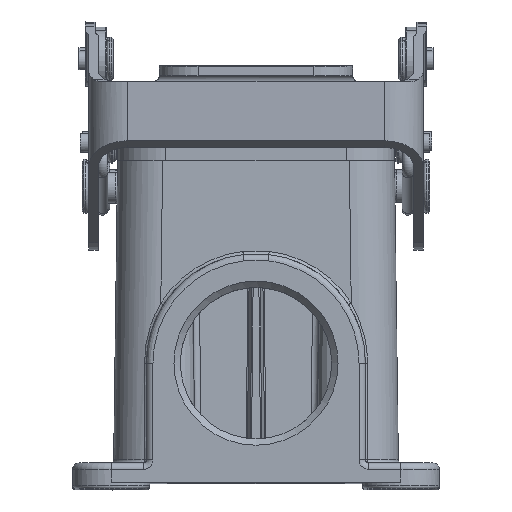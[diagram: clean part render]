
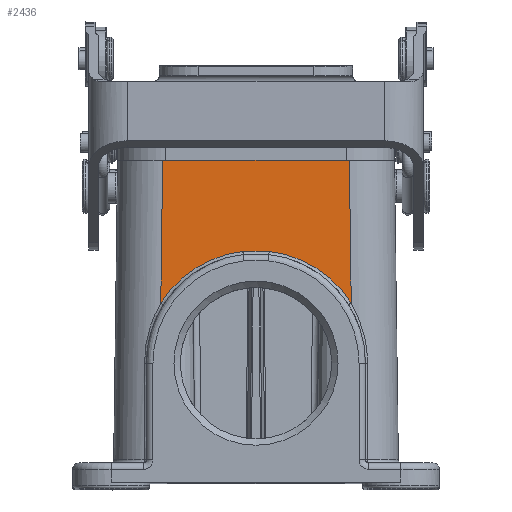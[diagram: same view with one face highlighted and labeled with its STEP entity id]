
A CAD part, top view. The second image highlights one B-rep face of the part: STEP entity #2436.
In plain terms, the highlighted planar face has unit normal (0, 0.013, 1).
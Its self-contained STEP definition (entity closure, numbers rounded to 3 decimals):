
#225 = CARTESIAN_POINT ( 'NONE',  ( -14.014, 50., 46.75 ) ) ;
#888 = EDGE_CURVE ( 'NONE', #17968, #13676, #14232, .T. ) ;
#926 = CARTESIAN_POINT ( 'NONE',  ( 14.791, 27.847, 47.04 ) ) ;
#1134 = EDGE_CURVE ( 'NONE', #1405, #24876, #7556, .T. ) ;
#1405 = VERTEX_POINT ( 'NONE', #26048 ) ;
#1640 = CARTESIAN_POINT ( 'NONE',  ( 14.005, 49.999, 46.75 ) ) ;
#1883 = FACE_OUTER_BOUND ( 'NONE', #19435, .T. ) ;
#2194 = CARTESIAN_POINT ( 'NONE',  ( 10.665, 32.395, 46.98 ) ) ;
#2389 = ORIENTED_EDGE ( 'NONE', *, *, #7335, .F. ) ;
#2436 = ADVANCED_FACE ( 'NONE', ( #1883 ), #3457, .T. ) ;
#2552 = DIRECTION ( 'NONE',  ( 0.013, 1., -0.013 ) ) ;
#3014 = B_SPLINE_CURVE_WITH_KNOTS ( 'NONE', 3,
 ( #25826, #26107, #21776, #11168, #21949, #9201, #11341, #26008, #26277, #13584, #13311, #26194, #7603, #3278, #13958 ),
 .UNSPECIFIED., .F., .F.,
 ( 4, 2, 2, 2, 1, 2, 2, 4 ),
 ( 0., 0.125, 0.25, 0.5, 0.625, 0.687, 0.75, 1. ),
 .UNSPECIFIED. ) ;
#3187 = ORIENTED_EDGE ( 'NONE', *, *, #888, .F. ) ;
#3278 = CARTESIAN_POINT ( 'NONE',  ( -3.329, 35.722, 46.937 ) ) ;
#3457 = PLANE ( 'NONE',  #8268 ) ;
#3859 = B_SPLINE_CURVE_WITH_KNOTS ( 'NONE', 3,
 ( #26865, #1640, #20408, #22770 ),
 .UNSPECIFIED., .F., .F.,
 ( 4, 4 ),
 ( 0., 1. ),
 .UNSPECIFIED. ) ;
#4238 = CARTESIAN_POINT ( 'NONE',  ( 13.28, 29.964, 47.012 ) ) ;
#4352 = VERTEX_POINT ( 'NONE', #12721 ) ;
#4836 = ORIENTED_EDGE ( 'NONE', *, *, #12229, .F. ) ;
#5298 = EDGE_CURVE ( 'NONE', #4352, #25368, #20809, .T. ) ;
#5414 = CARTESIAN_POINT ( 'NONE',  ( -14.501, 50., 46.75 ) ) ;
#5421 = LINE ( 'NONE', #11265, #12424 ) ;
#5570 = VERTEX_POINT ( 'NONE', #13102 ) ;
#5772 = LINE ( 'NONE', #17177, #21425 ) ;
#6921 = CARTESIAN_POINT ( 'NONE',  ( -14., 50., 46.75 ) ) ;
#7335 = EDGE_CURVE ( 'NONE', #23497, #10637, #5421, .T. ) ;
#7556 = B_SPLINE_CURVE_WITH_KNOTS ( 'NONE', 3,
 ( #21060, #12587, #25634, #19105, #14983, #14899, #27325, #10427, #14711, #2194, #10798, #25357, #12671, #4238, #8629, #17150 ),
 .UNSPECIFIED., .F., .F.,
 ( 4, 1, 2, 2, 2, 1, 2, 2, 4 ),
 ( 0., 0.125, 0.187, 0.25, 0.5, 0.625, 0.687, 0.75, 1. ),
 .UNSPECIFIED. ) ;
#7603 = CARTESIAN_POINT ( 'NONE',  ( -4.592, 35.43, 46.941 ) ) ;
#7974 = ORIENTED_EDGE ( 'NONE', *, *, #17130, .T. ) ;
#8268 = AXIS2_PLACEMENT_3D ( 'NONE', #9746, #14298, #16089 ) ;
#8629 = CARTESIAN_POINT ( 'NONE',  ( 14.09, 28.952, 47.026 ) ) ;
#9201 = CARTESIAN_POINT ( 'NONE',  ( -11.437, 31.803, 46.988 ) ) ;
#9746 = CARTESIAN_POINT ( 'NONE',  ( -23.873, 50., 46.75 ) ) ;
#10427 = CARTESIAN_POINT ( 'NONE',  ( 8.215, 34., 46.959 ) ) ;
#10637 = VERTEX_POINT ( 'NONE', #20738 ) ;
#10798 = CARTESIAN_POINT ( 'NONE',  ( 11.408, 31.768, 46.989 ) ) ;
#11168 = CARTESIAN_POINT ( 'NONE',  ( -13.253, 29.94, 47.013 ) ) ;
#11265 = CARTESIAN_POINT ( 'NONE',  ( 0., 50., 46.75 ) ) ;
#11341 = CARTESIAN_POINT ( 'NONE',  ( -10.422, 32.612, 46.978 ) ) ;
#11830 = VERTEX_POINT ( 'NONE', #13847 ) ;
#12229 = EDGE_CURVE ( 'NONE', #25368, #17968, #15630, .T. ) ;
#12256 = EDGE_CURVE ( 'NONE', #13676, #11830, #18808, .T. ) ;
#12377 = ORIENTED_EDGE ( 'NONE', *, *, #16477, .F. ) ;
#12424 = VECTOR ( 'NONE', #15558, 1000. ) ;
#12587 = CARTESIAN_POINT ( 'NONE',  ( 2.678, 35.799, 46.936 ) ) ;
#12671 = CARTESIAN_POINT ( 'NONE',  ( 12.13, 31.111, 46.997 ) ) ;
#12721 = CARTESIAN_POINT ( 'NONE',  ( -14.791, 27.847, 47.04 ) ) ;
#13102 = CARTESIAN_POINT ( 'NONE',  ( -2.028, 35.875, 46.935 ) ) ;
#13311 = CARTESIAN_POINT ( 'NONE',  ( -6.428, 34.773, 46.949 ) ) ;
#13584 = CARTESIAN_POINT ( 'NONE',  ( -7.028, 34.524, 46.953 ) ) ;
#13641 = CARTESIAN_POINT ( 'NONE',  ( -14., 50., 46.75 ) ) ;
#13676 = VERTEX_POINT ( 'NONE', #13641 ) ;
#13847 = CARTESIAN_POINT ( 'NONE',  ( 14., 50., 46.75 ) ) ;
#13936 = CARTESIAN_POINT ( 'NONE',  ( -23.873, 35.875, 46.935 ) ) ;
#13958 = CARTESIAN_POINT ( 'NONE',  ( -2.028, 35.875, 46.935 ) ) ;
#14232 = B_SPLINE_CURVE_WITH_KNOTS ( 'NONE', 3,
 ( #15762, #22079, #26321, #15958 ),
 .UNSPECIFIED., .F., .F.,
 ( 4, 4 ),
 ( 0., 1. ),
 .UNSPECIFIED. ) ;
#14298 = DIRECTION ( 'NONE',  ( 0., 0.013, 1. ) ) ;
#14330 = LINE ( 'NONE', #13936, #24261 ) ;
#14521 = ORIENTED_EDGE ( 'NONE', *, *, #5298, .F. ) ;
#14711 = CARTESIAN_POINT ( 'NONE',  ( 9.871, 32.959, 46.973 ) ) ;
#14891 = CARTESIAN_POINT ( 'NONE',  ( -14.498, 50.218, 46.747 ) ) ;
#14899 = CARTESIAN_POINT ( 'NONE',  ( 5.509, 35.107, 46.945 ) ) ;
#14954 = VECTOR ( 'NONE', #17652, 1000. ) ;
#14983 = CARTESIAN_POINT ( 'NONE',  ( 5.202, 35.206, 46.944 ) ) ;
#15131 = VECTOR ( 'NONE', #2552, 1000. ) ;
#15558 = DIRECTION ( 'NONE',  ( 1., 0., 0. ) ) ;
#15630 = LINE ( 'NONE', #23727, #14954 ) ;
#15762 = CARTESIAN_POINT ( 'NONE',  ( -14.014, 50., 46.75 ) ) ;
#15958 = CARTESIAN_POINT ( 'NONE',  ( -14., 50., 46.75 ) ) ;
#15976 = ORIENTED_EDGE ( 'NONE', *, *, #16730, .F. ) ;
#16076 = DIRECTION ( 'NONE',  ( 1., 0., 0. ) ) ;
#16089 = DIRECTION ( 'NONE',  ( 0., -1., 0.013 ) ) ;
#16454 = CARTESIAN_POINT ( 'NONE',  ( 14.014, 50., 46.75 ) ) ;
#16477 = EDGE_CURVE ( 'NONE', #10637, #24876, #5772, .T. ) ;
#16730 = EDGE_CURVE ( 'NONE', #11830, #23497, #3859, .T. ) ;
#17130 = EDGE_CURVE ( 'NONE', #4352, #5570, #3014, .T. ) ;
#17150 = CARTESIAN_POINT ( 'NONE',  ( 14.791, 27.847, 47.04 ) ) ;
#17177 = CARTESIAN_POINT ( 'NONE',  ( 14.498, 50.218, 46.747 ) ) ;
#17652 = DIRECTION ( 'NONE',  ( 1., 0., 0. ) ) ;
#17968 = VERTEX_POINT ( 'NONE', #225 ) ;
#18097 = ORIENTED_EDGE ( 'NONE', *, *, #12256, .F. ) ;
#18808 = B_SPLINE_CURVE_WITH_KNOTS ( 'NONE', 3,
 ( #6921, #19878, #23907, #24087 ),
 .UNSPECIFIED., .F., .F.,
 ( 4, 4 ),
 ( 0., 1. ),
 .UNSPECIFIED. ) ;
#19105 = CARTESIAN_POINT ( 'NONE',  ( 4.58, 35.387, 46.941 ) ) ;
#19435 = EDGE_LOOP ( 'NONE', ( #3187, #4836, #14521, #7974, #24856, #24360, #12377, #2389, #15976, #18097 ) ) ;
#19878 = CARTESIAN_POINT ( 'NONE',  ( -4.667, 49.999, 46.75 ) ) ;
#20408 = CARTESIAN_POINT ( 'NONE',  ( 14.01, 50., 46.75 ) ) ;
#20738 = CARTESIAN_POINT ( 'NONE',  ( 14.501, 50., 46.75 ) ) ;
#20809 = LINE ( 'NONE', #14891, #15131 ) ;
#21060 = CARTESIAN_POINT ( 'NONE',  ( 2.028, 35.875, 46.935 ) ) ;
#21425 = VECTOR ( 'NONE', #25389, 1000. ) ;
#21776 = CARTESIAN_POINT ( 'NONE',  ( -14.063, 28.928, 47.026 ) ) ;
#21949 = CARTESIAN_POINT ( 'NONE',  ( -12.822, 30.421, 47.006 ) ) ;
#22079 = CARTESIAN_POINT ( 'NONE',  ( -14.01, 50., 46.75 ) ) ;
#22770 = CARTESIAN_POINT ( 'NONE',  ( 14.014, 50., 46.75 ) ) ;
#23497 = VERTEX_POINT ( 'NONE', #16454 ) ;
#23727 = CARTESIAN_POINT ( 'NONE',  ( 0., 50., 46.75 ) ) ;
#23907 = CARTESIAN_POINT ( 'NONE',  ( 4.667, 49.999, 46.75 ) ) ;
#24087 = CARTESIAN_POINT ( 'NONE',  ( 14., 50., 46.75 ) ) ;
#24261 = VECTOR ( 'NONE', #16076, 1000. ) ;
#24360 = ORIENTED_EDGE ( 'NONE', *, *, #1134, .T. ) ;
#24856 = ORIENTED_EDGE ( 'NONE', *, *, #26574, .T. ) ;
#24876 = VERTEX_POINT ( 'NONE', #926 ) ;
#25357 = CARTESIAN_POINT ( 'NONE',  ( 11.893, 31.336, 46.994 ) ) ;
#25368 = VERTEX_POINT ( 'NONE', #5414 ) ;
#25389 = DIRECTION ( 'NONE',  ( 0.013, -1., 0.013 ) ) ;
#25634 = CARTESIAN_POINT ( 'NONE',  ( 3.639, 35.632, 46.938 ) ) ;
#25826 = CARTESIAN_POINT ( 'NONE',  ( -14.791, 27.847, 47.04 ) ) ;
#26008 = CARTESIAN_POINT ( 'NONE',  ( -8.767, 33.653, 46.964 ) ) ;
#26048 = CARTESIAN_POINT ( 'NONE',  ( 2.028, 35.875, 46.935 ) ) ;
#26107 = CARTESIAN_POINT ( 'NONE',  ( -14.441, 28.399, 47.033 ) ) ;
#26194 = CARTESIAN_POINT ( 'NONE',  ( -6.123, 34.89, 46.948 ) ) ;
#26277 = CARTESIAN_POINT ( 'NONE',  ( -7.916, 34.125, 46.958 ) ) ;
#26321 = CARTESIAN_POINT ( 'NONE',  ( -14.005, 49.999, 46.75 ) ) ;
#26574 = EDGE_CURVE ( 'NONE', #5570, #1405, #14330, .T. ) ;
#26865 = CARTESIAN_POINT ( 'NONE',  ( 14., 50., 46.75 ) ) ;
#27325 = CARTESIAN_POINT ( 'NONE',  ( 7.047, 34.565, 46.952 ) ) ;
